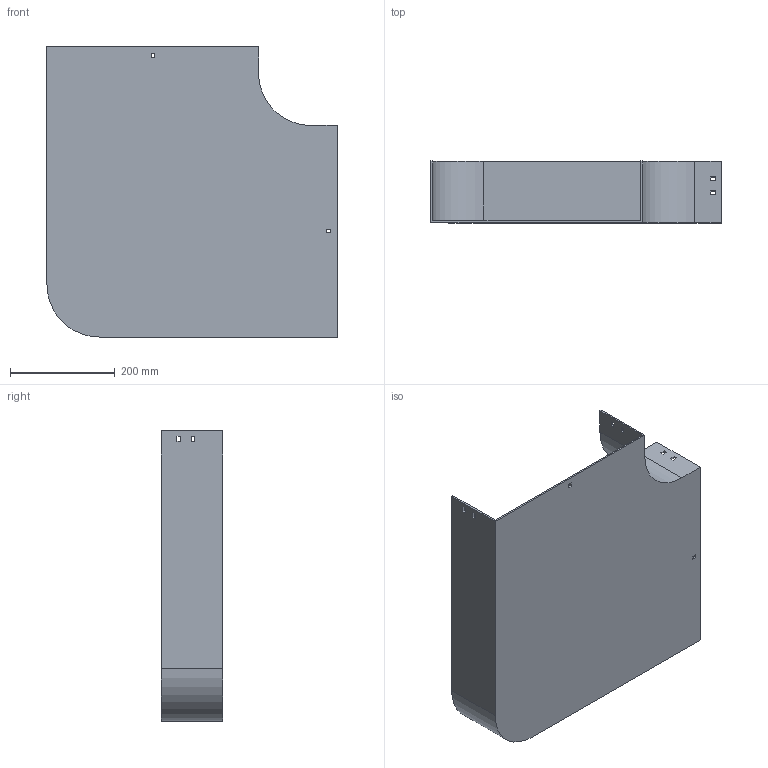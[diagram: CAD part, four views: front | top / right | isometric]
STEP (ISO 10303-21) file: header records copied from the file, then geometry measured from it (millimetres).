
FILE_DESCRIPTION (( 'STEP AP214' ), '1' );
FILE_NAME ('10B1J400.step', '2025-02-21T09:40:09', ( '' ), ( '' ), 'SwSTEP 2.0', 'SolidWorks 2023', '' );
FILE_SCHEMA (( 'AUTOMOTIVE_DESIGN' ));
Length unit declared in the file: millimetre
Products named in the file (1): 10B1J400
Bounding box: 554 x 117.5 x 554 mm (x, y, z)
Volume: 1520628 mm3; surface area: 879150.9 mm2
Topology: 1 solids, 1 shells, 58 faces, 168 edges, 112 vertices
Faces by surface type: plane 54, cylinder 4
Entity records: 1943 total; most frequent: CARTESIAN_POINT 339, ORIENTED_EDGE 336, DIRECTION 294, EDGE_CURVE 168, VECTOR 160, LINE 160, VERTEX_POINT 112, EDGE_LOOP 78
